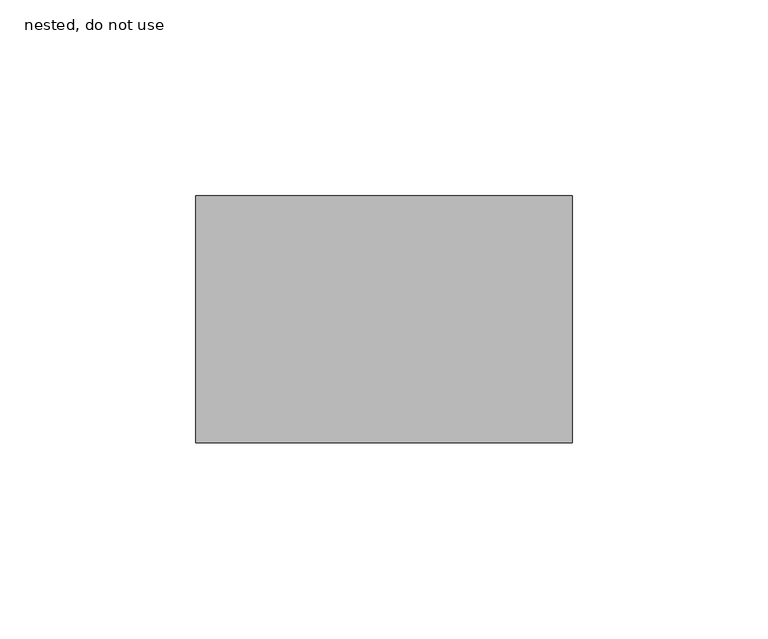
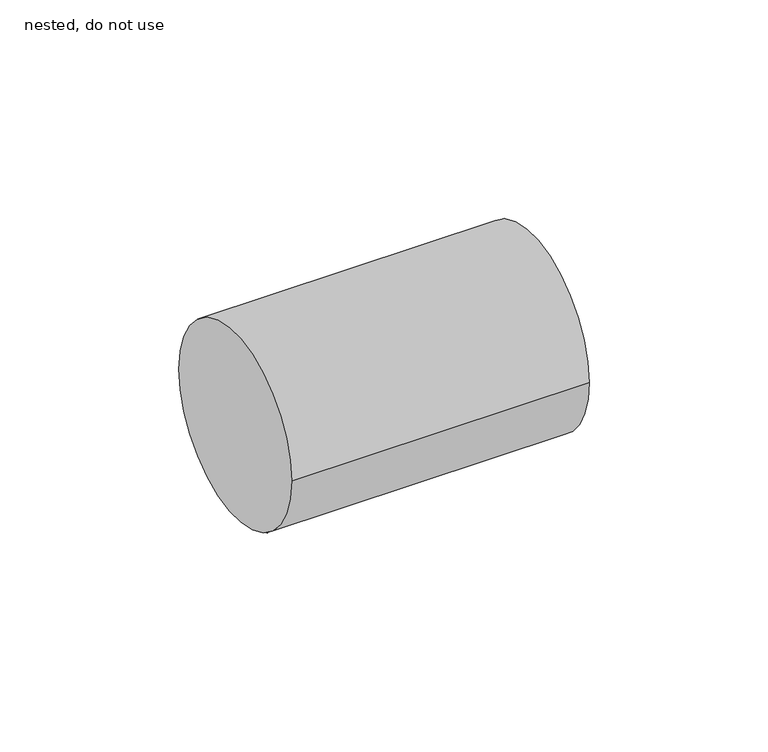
"""IFC4 building model written with IfcOpenShell, lengths in millimetres: pipe fitting geometry, NLRS_52_PIF_UN_Vacurain Flex spiebus_SH_Dyka : nested, do not use."""

from ifc_helpers import new_model, si_unit, point, frame, origin, origin_2d, place, context, project, spatial, circle_curve, trimmed, segment, composite_curve, outline, extrude, source, transform, mapped, element, save


def nested_do_not_use_1c18247b(model_context):
    return source(origin(), model_context, "Body", "SweptSolid", [
        extrude(outline(composite_curve([segment(trimmed(circle_curve(origin_2d(), 31.5), [point((-31.5, 0.0))], [point((31.5, 0.0))], False, "CARTESIAN"), True, "CONTINUOUS"), segment(trimmed(circle_curve(origin_2d(), 31.5), [point((31.5, 0.0))], [point((-31.5, 0.0))], False, "CARTESIAN"), True, "CONTINUOUS")], self_intersect=False)), frame((-48.0, 0.0, 0.0), z_axis=(1.0, 0.0, 0.0), x_axis=(0.0, 1.0, 0.0)), (0.0, 0.0, 1.0), 96.0),
    ])


if __name__ == "__main__":
    model = new_model("IFC4")
    model_context = context("Model", 3, world=origin())
    ifc_project = project(units=[si_unit("LENGTHUNIT", "METRE", prefix="MILLI")], contexts=[model_context])
    site = spatial("IfcSite", under=ifc_project)
    building = spatial("IfcBuilding", under=site)
    placement = place(None, origin())
    nested_do_not_use_shape = nested_do_not_use_1c18247b(model_context)
    element("IfcPipeFitting", 1, ObjectType="NLRS_52_PIF_UN_Vacurain Flex spiebus_SH_Dyka : nested, do not use", at=placement, inside=building, context=model_context, shape_type="MappedRepresentation", body=[
        mapped(nested_do_not_use_shape, transform((0.0, 0.0, 0.0), x_axis=(1.0, 0.0, 0.0), y_axis=(0.0, 1.0, 0.0), z_axis=(0.0, 0.0, 1.0))),
    ])
    save(model, "model.ifc")
